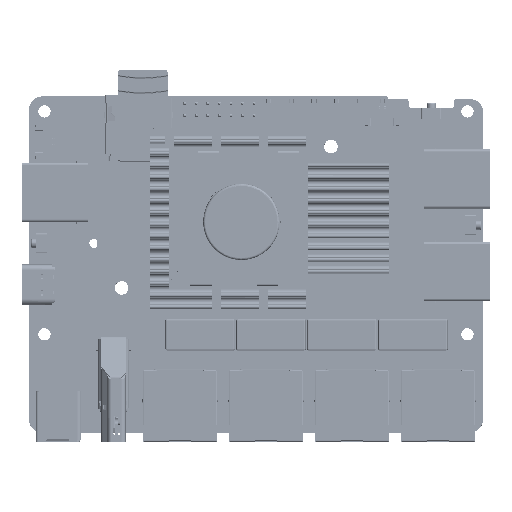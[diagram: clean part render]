
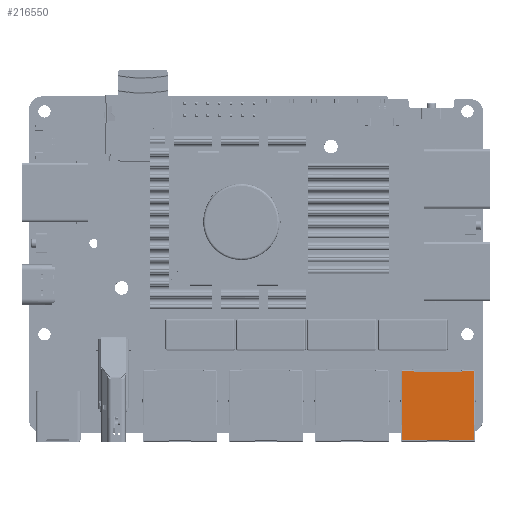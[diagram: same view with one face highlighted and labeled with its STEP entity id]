
A CAD part, top view. The second image highlights one B-rep face of the part: STEP entity #216550.
In plain terms, the highlighted planar face has unit normal (0, 0, 1) as drawn and (0, -1, 0) by its records, which use the part's own axes.
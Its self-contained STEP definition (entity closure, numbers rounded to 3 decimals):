
#210864=DIRECTION('',(-1.,0.,0.));
#210865=VECTOR('',#210864,3.357);
#210866=CARTESIAN_POINT('',(15.45,-6.55,-0.25));
#210867=LINE('',#210866,#210865);
#210894=DIRECTION('',(1.,0.,0.));
#210895=VECTOR('',#210894,0.008);
#210896=CARTESIAN_POINT('',(0.248,-6.55,-16.15));
#210897=LINE('',#210896,#210895);
#210898=CARTESIAN_POINT('',(0.23,-6.55,-13.25));
#210899=DIRECTION('',(0.,-1.,0.));
#210900=DIRECTION('',(0.089,0.,-0.996));
#210901=AXIS2_PLACEMENT_3D('',#210898,#210899,#210900);
#210903=DIRECTION('',(0.,0.,1.));
#210904=VECTOR('',#210903,10.1);
#210905=CARTESIAN_POINT('',(0.43,-6.55,-13.25));
#210906=LINE('',#210905,#210904);
#210907=CARTESIAN_POINT('',(0.23,-6.55,-3.15));
#210908=DIRECTION('',(0.,-1.,0.));
#210909=DIRECTION('',(1.,0.,0.));
#210910=AXIS2_PLACEMENT_3D('',#210907,#210908,#210909);
#210912=DIRECTION('',(0.,0.,-1.));
#210913=VECTOR('',#210912,5.);
#210914=CARTESIAN_POINT('',(15.45,-6.55,-5.7));
#210915=LINE('',#210914,#210913);
#210934=DIRECTION('',(0.,0.,-1.));
#210935=VECTOR('',#210934,2.701);
#210936=CARTESIAN_POINT('',(0.248,-6.55,-13.449));
#210937=LINE('',#210936,#210935);
#211517=DIRECTION('',(0.,0.,-1.));
#211518=VECTOR('',#211517,2.701);
#211519=CARTESIAN_POINT('',(0.248,-6.55,-0.25));
#211520=LINE('',#211519,#211518);
#211535=DIRECTION('',(-1.,0.,0.));
#211536=VECTOR('',#211535,0.008);
#211537=CARTESIAN_POINT('',(0.256,-6.55,-0.25));
#211538=LINE('',#211537,#211536);
#211573=DIRECTION('',(-1.,0.,0.));
#211574=VECTOR('',#211573,11.837);
#211575=CARTESIAN_POINT('',(12.093,-6.55,-0.25));
#211576=LINE('',#211575,#211574);
#212236=DIRECTION('',(0.,0.,1.));
#212237=VECTOR('',#212236,5.45);
#212238=CARTESIAN_POINT('',(15.45,-6.55,-5.7));
#212239=LINE('',#212238,#212237);
#212958=DIRECTION('',(1.,0.,0.));
#212959=VECTOR('',#212958,3.357);
#212960=CARTESIAN_POINT('',(12.093,-6.55,-16.15));
#212961=LINE('',#212960,#212959);
#213036=DIRECTION('',(1.,0.,0.));
#213037=VECTOR('',#213036,11.837);
#213038=CARTESIAN_POINT('',(0.256,-6.55,-16.15));
#213039=LINE('',#213038,#213037);
#213146=DIRECTION('',(0.,0.,1.));
#213147=VECTOR('',#213146,5.45);
#213148=CARTESIAN_POINT('',(15.45,-6.55,-16.15));
#213149=LINE('',#213148,#213147);
#215189=CARTESIAN_POINT('',(12.093,-6.55,-0.25));
#215191=VERTEX_POINT('',#215189);
#215194=CARTESIAN_POINT('',(15.45,-6.55,-0.25));
#215195=VERTEX_POINT('',#215194);
#215220=CARTESIAN_POINT('',(0.248,-6.55,-16.15));
#215221=CARTESIAN_POINT('',(0.256,-6.55,-16.15));
#215222=VERTEX_POINT('',#215220);
#215223=VERTEX_POINT('',#215221);
#215224=CARTESIAN_POINT('',(0.248,-6.55,-13.449));
#215225=VERTEX_POINT('',#215224);
#215226=CARTESIAN_POINT('',(0.43,-6.55,-13.25));
#215227=VERTEX_POINT('',#215226);
#215228=CARTESIAN_POINT('',(0.43,-6.55,-3.15));
#215229=VERTEX_POINT('',#215228);
#215230=CARTESIAN_POINT('',(0.248,-6.55,-2.951));
#215231=VERTEX_POINT('',#215230);
#215232=CARTESIAN_POINT('',(0.248,-6.55,-0.25));
#215233=VERTEX_POINT('',#215232);
#215234=CARTESIAN_POINT('',(0.256,-6.55,-0.25));
#215235=VERTEX_POINT('',#215234);
#215236=CARTESIAN_POINT('',(15.45,-6.55,-5.7));
#215237=VERTEX_POINT('',#215236);
#215238=CARTESIAN_POINT('',(15.45,-6.55,-10.7));
#215239=VERTEX_POINT('',#215238);
#215240=CARTESIAN_POINT('',(15.45,-6.55,-16.15));
#215241=VERTEX_POINT('',#215240);
#215242=CARTESIAN_POINT('',(12.093,-6.55,-16.15));
#215243=VERTEX_POINT('',#215242);
#216517=CARTESIAN_POINT('',(15.7,-6.55,0.));
#216518=DIRECTION('',(0.,1.,0.));
#216519=DIRECTION('',(1.,0.,0.));
#216520=AXIS2_PLACEMENT_3D('',#216517,#216518,#216519);
#216521=PLANE('',#216520);
#216523=ORIENTED_EDGE('',*,*,#216522,.F.);
#216525=ORIENTED_EDGE('',*,*,#216524,.T.);
#216527=ORIENTED_EDGE('',*,*,#216526,.T.);
#216529=ORIENTED_EDGE('',*,*,#216528,.T.);
#216531=ORIENTED_EDGE('',*,*,#216530,.F.);
#216533=ORIENTED_EDGE('',*,*,#216532,.F.);
#216535=ORIENTED_EDGE('',*,*,#216534,.F.);
#216536=ORIENTED_EDGE('',*,*,#216461,.F.);
#216538=ORIENTED_EDGE('',*,*,#216537,.F.);
#216540=ORIENTED_EDGE('',*,*,#216539,.T.);
#216542=ORIENTED_EDGE('',*,*,#216541,.F.);
#216544=ORIENTED_EDGE('',*,*,#216543,.F.);
#216546=ORIENTED_EDGE('',*,*,#216545,.F.);
#216547=ORIENTED_EDGE('',*,*,#216507,.F.);
#216548=EDGE_LOOP('',(#216523,#216525,#216527,#216529,#216531,#216533,#216535,
#216536,#216538,#216540,#216542,#216544,#216546,#216547));
#216549=FACE_OUTER_BOUND('',#216548,.F.);
#216550=ADVANCED_FACE('',(#216549),#216521,.F.);
#210902=CIRCLE('',#210901,0.2);
#210911=CIRCLE('',#210910,0.2);
#216461=EDGE_CURVE('',#215195,#215191,#210867,.T.);
#216507=EDGE_CURVE('',#215222,#215223,#210897,.T.);
#216522=EDGE_CURVE('',#215225,#215222,#210937,.T.);
#216524=EDGE_CURVE('',#215225,#215227,#210902,.T.);
#216526=EDGE_CURVE('',#215227,#215229,#210906,.T.);
#216528=EDGE_CURVE('',#215229,#215231,#210911,.T.);
#216530=EDGE_CURVE('',#215233,#215231,#211520,.T.);
#216532=EDGE_CURVE('',#215235,#215233,#211538,.T.);
#216534=EDGE_CURVE('',#215191,#215235,#211576,.T.);
#216537=EDGE_CURVE('',#215237,#215195,#212239,.T.);
#216539=EDGE_CURVE('',#215237,#215239,#210915,.T.);
#216541=EDGE_CURVE('',#215241,#215239,#213149,.T.);
#216543=EDGE_CURVE('',#215243,#215241,#212961,.T.);
#216545=EDGE_CURVE('',#215223,#215243,#213039,.T.);
